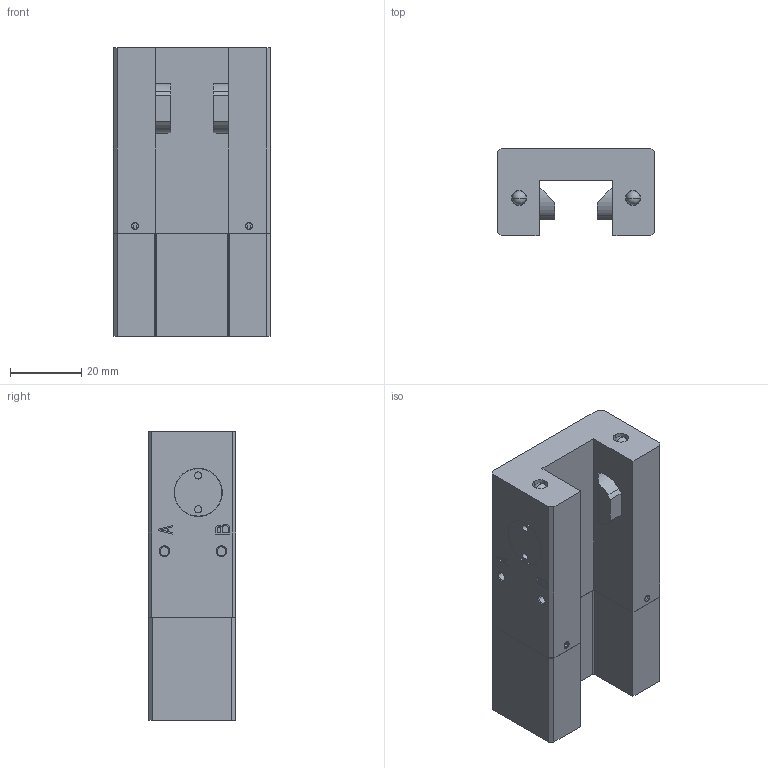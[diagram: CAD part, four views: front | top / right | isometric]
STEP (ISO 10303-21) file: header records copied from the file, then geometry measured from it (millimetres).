
FILE_DESCRIPTION( ( '' ), '1' );
FILE_NAME( 'E:/04 嬴檜蠱滌/0404 ZIMMER/040414 ZIMMER CAD download/LKPS/LKPS2014DS2---.stp', '2020-04-16T09:47:12', ( '' ), ( '' ), ' ', ' ', ' ' );
FILE_SCHEMA( ( 'automotive_design' ) );
Length unit declared in the file: millimetre
Products named in the file (1): 1
Bounding box: 44 x 24.5 x 80.9 mm (x, y, z)
Volume: 60778.2 mm3; surface area: 16503.7 mm2
Topology: 1 solids, 1 shells, 279 faces, 660 edges, 434 vertices
Faces by surface type: plane 175, cylinder 80, cone 16, sphere 4, torus 4
Entity records: 15720 total; most frequent: DIRECTION 1420, STYLED_ITEM 1370, PRESENTATION_STYLE_ASSIGNMENT 1370, CARTESIAN_POINT 1370, COLOUR_RGB 1370, ORIENTED_EDGE 1312, EDGE_CURVE 656, CURVE_STYLE 656
